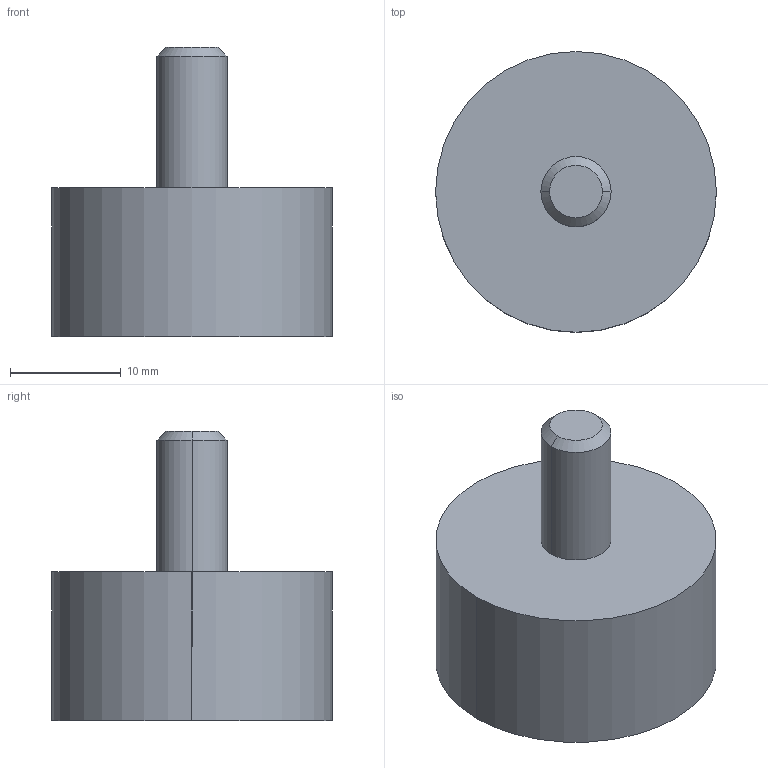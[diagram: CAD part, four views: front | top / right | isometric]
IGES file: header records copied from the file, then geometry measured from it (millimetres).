
Global section: file name: C:\Documents and Settings\Administrator\Desktop\Transfer Temp\pm-1420-45ps.igs; native system: AutoDesk Inventor R2.0 ; preprocessor: AutoDesk Inventor Iges Exporter R2.0; author: No Author specified; organization: No Organization specified; date: 20011226.201742; units: inch
Bounding box: 25.4 x 25.4 x 26.16 mm (x, y, z)
Surface area: 2483.1 mm2 (no closed solid volume)
Topology: 0 solids, 0 shells, 13 faces, 50 edges, 48 vertices
Faces by surface type: bspline 7, revolution 6
